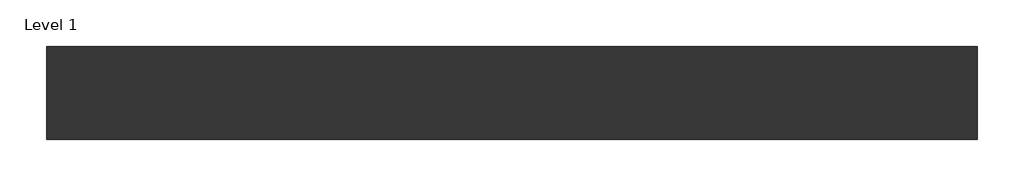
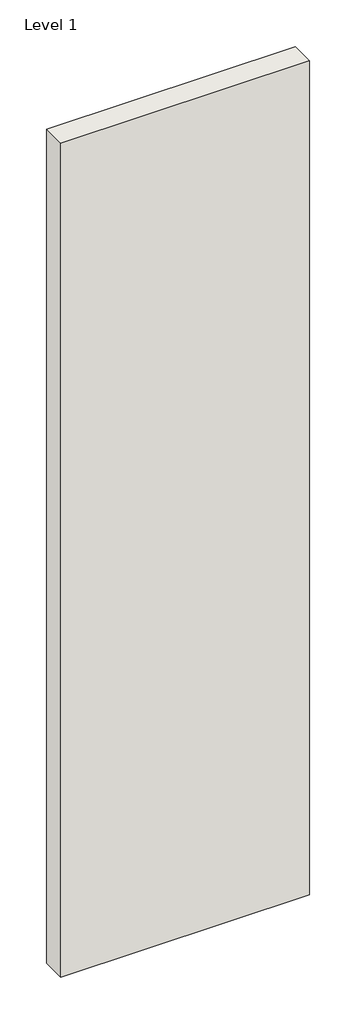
# One storey: 1 wall.
"""IFC4 building model written with IfcOpenShell, lengths in millimetres."""

from ifc_helpers import new_model, si_unit, origin, origin_with_axes, place, context, project, spatial, polyline, outline, extrude, element, save

model = new_model("IFC4")

# Units and contexts
model_context = context("Model", 3, world=origin())
ifc_project = project(units=[si_unit("LENGTHUNIT", "METRE", prefix="MILLI")], contexts=[model_context])

# Site, building, storey
site = spatial("IfcSite", under=ifc_project)
building = spatial("IfcBuilding", under=site)
storey = spatial("IfcBuildingStorey", under=building, Name="Level 1", Elevation=0.0)

# Wall
placement = place(None, origin())
element("IfcWall", 1, ObjectType="Tabique Simple – Placo® 120(90) BA15 + 90LM + PPM15 c/400 - 47 dBA", at=placement, inside=storey, context=model_context, shape_type="SweptSolid", body=[
    extrude(outline(polyline([(-27546.4711674, -76360.0523199), (-28746.4711674, -76360.0523199), (-28746.4711674, -76240.0523199), (-27546.4711674, -76240.0523199), (-27546.4711674, -76360.0523199)])), origin_with_axes(), (0.0, 0.0, 1.0), 4250.0),
])

save(model, "model.ifc")
